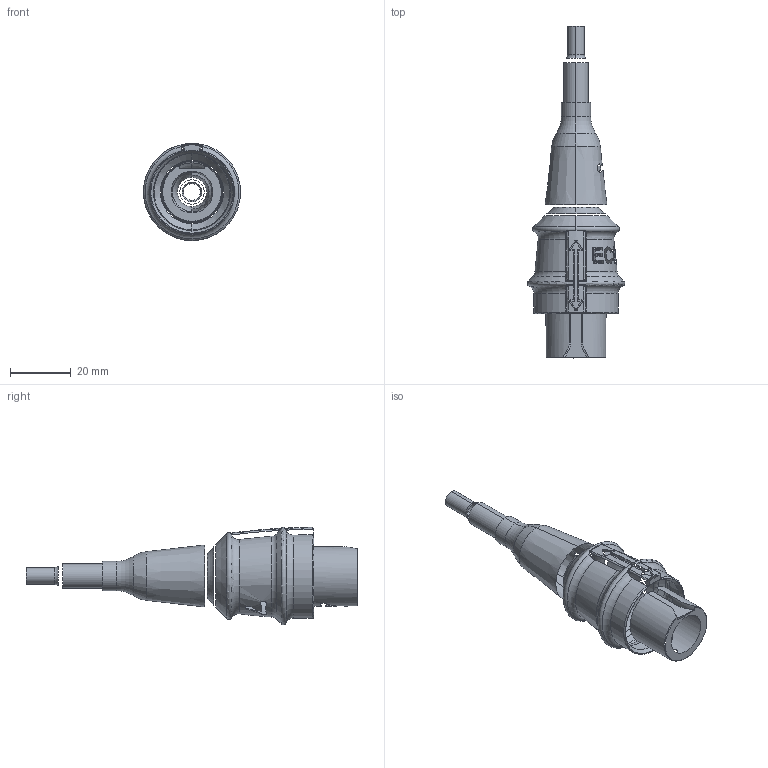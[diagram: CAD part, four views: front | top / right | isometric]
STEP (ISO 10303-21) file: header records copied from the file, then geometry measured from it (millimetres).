
FILE_DESCRIPTION((''),'2;1');
FILE_NAME('LCN-EC8X1-INLM_ASM','2023-07-04T21:36:42',('Neil'),(''),'CREO PARAMETRIC BY PTC INC, 2020414','CREO PARAMETRIC BY PTC INC, 2020414','');
FILE_SCHEMA(('CONFIG_CONTROL_DESIGN'));
Length unit declared in the file: millimetre
Products named in the file (1): LCN-EC8X1-INLM_ASM
Bounding box: 31.89 x 108.85 x 31.9 mm (x, y, z)
Surface area: 6816.9 mm2 (no closed solid volume)
Topology: 0 solids, 16 shells, 52 faces, 404 edges, 362 vertices
Faces by surface type: torus 22, bspline 10, cone 10, cylinder 7, plane 3
Entity records: 6302 total; most frequent: CARTESIAN_POINT 3928, ORIENTED_EDGE 459, EDGE_CURVE 404, VERTEX_POINT 362, DIRECTION 308, B_SPLINE_CURVE_WITH_KNOTS 277, AXIS2_PLACEMENT_3D 138, CIRCLE 95
